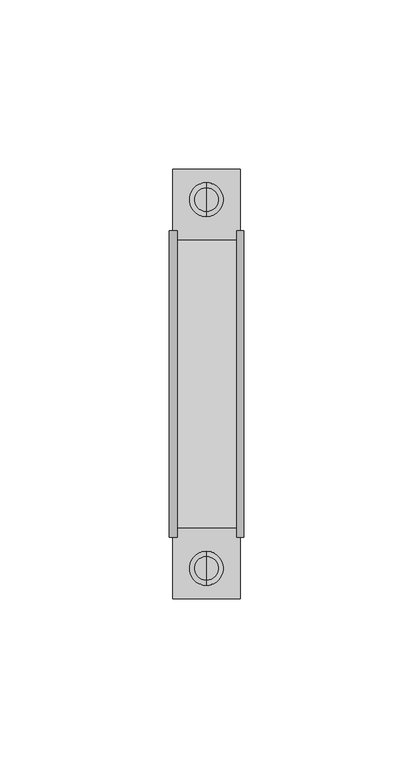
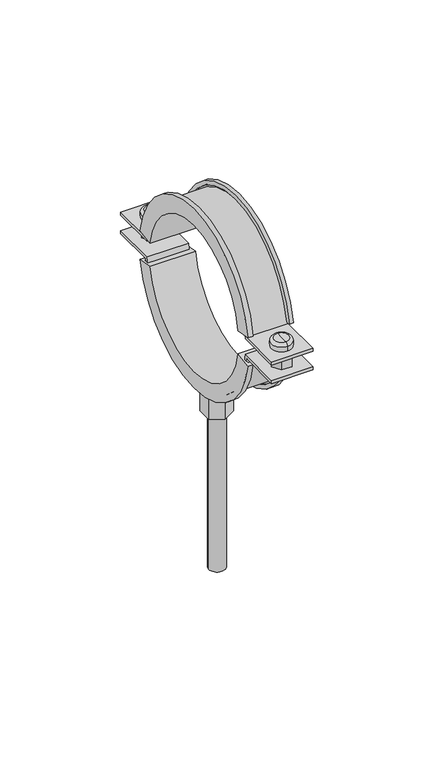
"""IFC4 building model written with IfcOpenShell, lengths in millimetres: pipe fitting geometry, NIRON abrazadera isofonica lisa : Estándard."""

from ifc_helpers import new_model, si_unit, point, frame, origin, origin_2d, place, context, project, spatial, polyline, circle_curve, ellipse_curve, trimmed, segment, composite_curve, outline, extrude, source, transform, mapped, element, save
from ifc_brep_helpers import plane_surface, cylinder_surface, revolved_surface, advanced_brep


def pipe_fitting_d95d0fd4(model_context):
    return source(origin(), model_context, "Body", "SolidModel", [
        advanced_brep(
        [(0.0, 50.5, -7.8), (0.0, 50.5, -4.8), (0.0, 58.5, -4.8), (0.0, 58.5, -7.8), (0.0, 54.5, -7.8), (0.0, 54.5, -4.8)],
        [
            (0, 1),
            (1, 2, circle_curve(frame((0.0, 54.5, -4.8), z_axis=(0.0, 0.0, -1.0), x_axis=(0.0, 1.0, 0.0)), 4.0)),
            (2, 3),
            (3, 0, circle_curve(frame((0.0, 54.5, -7.8), z_axis=(0.0, 0.0, 1.0), x_axis=(0.0, 1.0, 0.0)), 4.0)),
            (2, 1, circle_curve(frame((0.0, 54.5, -4.8), z_axis=(0.0, 0.0, -1.0), x_axis=(0.0, 1.0, 0.0)), 4.0)),
            (0, 3, circle_curve(frame((0.0, 54.5, -7.8), z_axis=(0.0, 0.0, 1.0), x_axis=(0.0, 1.0, 0.0)), 4.0)),
            (4, 0),
            (3, 4),
            (1, 5),
            (5, 2),
        ],
        [
            cylinder_surface(frame((0.0, 54.5, -110.5332781), z_axis=(0.0, 0.0, -1.0), x_axis=(0.0, 1.0, 0.0)), 4.0),
            plane_surface(frame((0.0, 54.5, -7.8), z_axis=(0.0, 0.0, -1.0), x_axis=(0.0, 1.0, 0.0))),
            plane_surface(frame((0.0, 54.5, -4.8), z_axis=(0.0, 0.0, 1.0), x_axis=(0.0, 1.0, 0.0))),
        ],
        [
            (0, [[1, 2, 3, 4]]),
            (0, [[-3, 5, -1, 6]]),
            (1, [[7, -4, 8]]),
            (1, [[-8, -6, -7]]),
            (2, [[9, 10, -2]]),
            (2, [[-10, -9, -5]]),
        ],
    ),
        advanced_brep(
        [(0.0, 54.5, 4.8), (0.0, 49.5, 4.8), (0.0, 59.5, 4.8), (0.0, 49.5, 7.3), (0.0, 59.5, 7.3), (0.0, 51.0, 8.8), (0.0, 54.5, 8.8), (0.0, 58.0, 8.8)],
        [
            (0, 1),
            (1, 2, circle_curve(frame((0.0, 54.5, 4.8), z_axis=(0.0, 0.0, -1.0), x_axis=(0.0, 1.0, 0.0)), 5.0)),
            (2, 0),
            (2, 1, circle_curve(frame((0.0, 54.5, 4.8), z_axis=(0.0, 0.0, -1.0), x_axis=(0.0, 1.0, 0.0)), 5.0)),
            (1, 3),
            (3, 4, circle_curve(frame((0.0, 54.5, 7.3), z_axis=(0.0, 0.0, -1.0), x_axis=(0.0, 1.0, 0.0)), 5.0)),
            (4, 2),
            (4, 3, circle_curve(frame((0.0, 54.5, 7.3), z_axis=(0.0, 0.0, -1.0), x_axis=(0.0, 1.0, 0.0)), 5.0)),
            (5, 6),
            (6, 7),
            (7, 5, circle_curve(frame((0.0, 54.5, 8.8), z_axis=(0.0, 0.0, 1.0), x_axis=(0.0, 1.0, 0.0)), 3.5)),
            (5, 7, circle_curve(frame((0.0, 54.5, 8.8), z_axis=(0.0, 0.0, 1.0), x_axis=(0.0, 1.0, 0.0)), 3.5)),
            (3, 5, circle_curve(frame((0.0, 51.0, 7.3), z_axis=(-1.0, 0.0, 0.0), x_axis=(0.0, 1.0, 0.0)), 1.5)),
            (7, 4, circle_curve(frame((0.0, 58.0, 7.3), z_axis=(-1.0, 0.0, 0.0), x_axis=(0.0, -1.0, 0.0)), 1.5)),
        ],
        [
            plane_surface(frame((0.0, 54.5, 4.8), z_axis=(0.0, 0.0, -1.0), x_axis=(0.0, 1.0, 0.0))),
            cylinder_surface(frame((0.0, 54.5, 9.8), z_axis=(0.0, 0.0, -1.0), x_axis=(0.0, 1.0, 0.0)), 5.0),
            plane_surface(frame((0.0, 54.5, 8.8), z_axis=(0.0, 0.0, 1.0), x_axis=(0.0, 1.0, 0.0))),
            revolved_surface(trimmed(ellipse_curve(frame((0.0, 58.0, 7.3), z_axis=(-1.0, 0.0, 0.0), x_axis=(0.0, -1.0, 0.0)), 1.5, 1.5), [point((0.0, 58.0, 8.8))], [point((0.0, 59.5, 7.3))], True, "CARTESIAN"), (0.0, 54.5, 9.8), (0.0, 0.0, -1.0)),
        ],
        [
            (0, [[1, 2, 3]]),
            (0, [[-3, 4, -1]]),
            (1, [[5, 6, 7, -2]]),
            (1, [[-7, 8, -5, -4]]),
            (2, [[9, 10, 11]]),
            (2, [[-10, -9, 12]]),
            (3, [[13, -11, 14, -6]]),
            (3, [[-14, -12, -13, -8]]),
        ],
    ),
        advanced_brep(
        [(0.0, -50.5, -7.4875), (0.0, -58.5, -7.4875), (0.0, -58.5, -4.4875), (0.0, -50.5, -4.4875), (0.0, -54.5, -7.4875), (0.0, -54.5, -4.4875)],
        [
            (0, 1, circle_curve(frame((0.0, -54.5, -7.4875), z_axis=(0.0, 0.0, 1.0), x_axis=(0.0, -1.0, 0.0)), 4.0)),
            (1, 2),
            (2, 3, circle_curve(frame((0.0, -54.5, -4.4875), z_axis=(0.0, 0.0, -1.0), x_axis=(0.0, -1.0, 0.0)), 4.0)),
            (3, 0),
            (1, 0, circle_curve(frame((0.0, -54.5, -7.4875), z_axis=(0.0, 0.0, 1.0), x_axis=(0.0, -1.0, 0.0)), 4.0)),
            (3, 2, circle_curve(frame((0.0, -54.5, -4.4875), z_axis=(0.0, 0.0, -1.0), x_axis=(0.0, -1.0, 0.0)), 4.0)),
            (4, 1),
            (0, 4),
            (2, 5),
            (5, 3),
        ],
        [
            cylinder_surface(frame((0.0, -54.5, -110.2207781), z_axis=(0.0, 0.0, -1.0), x_axis=(0.0, -1.0, 0.0)), 4.0),
            plane_surface(frame((0.0, -54.5, -7.4875), z_axis=(0.0, 0.0, -1.0), x_axis=(0.0, -1.0, 0.0))),
            plane_surface(frame((0.0, -54.5, -4.4875), z_axis=(0.0, 0.0, 1.0), x_axis=(0.0, -1.0, 0.0))),
        ],
        [
            (0, [[1, 2, 3, 4]]),
            (0, [[5, -4, 6, -2]]),
            (1, [[7, -1, 8]]),
            (1, [[-8, -5, -7]]),
            (2, [[-3, 9, 10]]),
            (2, [[-6, -10, -9]]),
        ],
    ),
        advanced_brep(
        [(0.0, -54.5, 5.1125), (0.0, -59.5, 5.1125), (0.0, -49.5, 5.1125), (0.0, -59.5, 7.6125), (0.0, -49.5, 7.6125), (0.0, -51.0, 9.1125), (0.0, -58.0, 9.1125), (0.0, -54.5, 9.1125)],
        [
            (0, 1),
            (1, 2, circle_curve(frame((0.0, -54.5, 5.1125), z_axis=(0.0, 0.0, -1.0), x_axis=(0.0, -1.0, 0.0)), 5.0)),
            (2, 0),
            (2, 1, circle_curve(frame((0.0, -54.5, 5.1125), z_axis=(0.0, 0.0, -1.0), x_axis=(0.0, -1.0, 0.0)), 5.0)),
            (1, 3),
            (3, 4, circle_curve(frame((0.0, -54.5, 7.6125), z_axis=(0.0, 0.0, -1.0), x_axis=(0.0, -1.0, 0.0)), 5.0)),
            (4, 2),
            (4, 3, circle_curve(frame((0.0, -54.5, 7.6125), z_axis=(0.0, 0.0, -1.0), x_axis=(0.0, -1.0, 0.0)), 5.0)),
            (5, 6, circle_curve(frame((0.0, -54.5, 9.1125), z_axis=(0.0, 0.0, 1.0), x_axis=(0.0, -1.0, 0.0)), 3.5)),
            (6, 7),
            (7, 5),
            (6, 5, circle_curve(frame((0.0, -54.5, 9.1125), z_axis=(0.0, 0.0, 1.0), x_axis=(0.0, -1.0, 0.0)), 3.5)),
            (3, 6, circle_curve(frame((0.0, -58.0, 7.6125), z_axis=(-1.0, 0.0, 0.0), x_axis=(0.0, 1.0, 0.0)), 1.5)),
            (5, 4, circle_curve(frame((0.0, -51.0, 7.6125), z_axis=(-1.0, 0.0, 0.0), x_axis=(0.0, -1.0, 0.0)), 1.5)),
        ],
        [
            plane_surface(frame((0.0, -54.5, 5.1125), z_axis=(0.0, 0.0, -1.0), x_axis=(0.0, -1.0, 0.0))),
            cylinder_surface(frame((0.0, -54.5, 10.1125), z_axis=(0.0, 0.0, -1.0), x_axis=(0.0, -1.0, 0.0)), 5.0),
            plane_surface(frame((0.0, -54.5, 9.1125), z_axis=(0.0, 0.0, 1.0), x_axis=(0.0, -1.0, 0.0))),
            revolved_surface(trimmed(ellipse_curve(frame((0.0, -58.0, 7.6125), z_axis=(1.0, 0.0, 0.0), x_axis=(0.0, 1.0, 0.0)), 1.5, 1.5), [point((0.0, -58.0, 9.1125))], [point((0.0, -59.5, 7.6125))], True, "CARTESIAN"), (0.0, -54.5, 10.1125), (0.0, 0.0, -1.0)),
        ],
        [
            (0, [[1, 2, 3]]),
            (0, [[-3, 4, -1]]),
            (1, [[-2, 5, 6, 7]]),
            (1, [[-4, -7, 8, -5]]),
            (2, [[9, 10, 11]]),
            (2, [[12, -11, -10]]),
            (3, [[-6, 13, -9, 14]]),
            (3, [[-8, -14, -12, -13]]),
        ],
    ),
        extrude(outline(polyline([(2.5, 50.169873), (-2.5, 50.169873), (-5.0, 54.5), (-2.5, 58.830127), (2.5, 58.830127), (5.0, 54.5), (2.5, 50.169873)])), frame((0.0, 0.0, -4.0), z_axis=(0.0, 0.0, 1.0), x_axis=(1.0, 0.0, 0.0)), (0.0, 0.0, 1.0), 8.0),
        extrude(outline(polyline([(2.5, -50.169873), (5.0, -54.5), (2.5, -58.830127), (-2.5, -58.830127), (-5.0, -54.5), (-2.5, -50.169873), (2.5, -50.169873)])), frame((0.0, 0.0, -4.0), z_axis=(0.0, 0.0, 1.0), x_axis=(1.0, 0.0, 0.0)), (0.0, 0.0, 1.0), 8.0),
        advanced_brep(
        [(11.0, -37.0244701, 6.0), (11.0, -45.3673174, 7.341417), (9.0, -45.3673174, 7.341417), (9.0, -43.392679, 7.0239218), (10.0, -43.392679, 7.0239218), (10.0, -41.4180406, 6.7064267), (-10.0, -41.4180406, 6.7064267), (-10.0, -43.392679, 7.0239218), (-8.5466338, -43.392679, 7.0239218), (-8.5466338, -45.3673174, 7.341417), (-11.0, -45.3673174, 7.341417), (-11.0, -37.0244701, 6.0), (11.0, 37.0244701, 6.0), (-11.0, 37.0244701, 6.0), (-11.0, 45.3673174, 7.341417), (-8.5466338, 45.3673174, 7.341417), (-8.5466338, 43.392679, 7.0239218), (-10.0, 43.392679, 7.0239218), (-10.0, 41.4180406, 6.7064267), (10.0, 41.4180406, 6.7064267), (10.0, 43.392679, 7.0239218), (9.0, 43.392679, 7.0239218), (9.0, 45.3673174, 7.341417), (11.0, 45.3673174, 7.341417)],
        [
            (0, 1),
            (1, 2),
            (2, 3),
            (3, 4),
            (4, 5),
            (5, 6),
            (6, 7),
            (7, 8),
            (8, 9),
            (9, 10),
            (10, 11),
            (11, 0),
            (12, 13),
            (13, 14),
            (14, 15),
            (15, 16),
            (16, 17),
            (17, 18),
            (18, 19),
            (19, 20),
            (20, 21),
            (21, 22),
            (22, 23),
            (23, 12),
            (12, 0, circle_curve(frame((11.0, 0.0, 0.0469661), z_axis=(1.0, 0.0, 0.0), x_axis=(0.0, -0.9873192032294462, 0.15874756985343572)), 37.5)),
            (11, 13, circle_curve(frame((-11.0, 0.0, 0.0469661), z_axis=(-1.0, 0.0, 0.0), x_axis=(0.0, -0.9873192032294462, 0.15874756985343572)), 37.5)),
            (10, 14, circle_curve(frame((-11.0, 0.0, 0.0469661), z_axis=(-1.0, 0.0, 0.0), x_axis=(0.0, -0.9873192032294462, 0.15874756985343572)), 45.95)),
            (9, 15, circle_curve(frame((-8.5466338, 0.0, 0.0469661), z_axis=(-1.0, 0.0, 0.0), x_axis=(0.0, -0.9873192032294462, 0.15874756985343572)), 45.95)),
            (8, 16, circle_curve(frame((-8.5466338, 0.0, 0.0469661), z_axis=(-1.0, 0.0, 0.0), x_axis=(0.0, -0.9873192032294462, 0.15874756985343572)), 43.95)),
            (7, 17, circle_curve(frame((-10.0, 0.0, 0.0469661), z_axis=(-1.0, 0.0, 0.0), x_axis=(0.0, -0.9873192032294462, 0.15874756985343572)), 43.95)),
            (6, 18, circle_curve(frame((-10.0, 0.0, 0.0469661), z_axis=(-1.0, 0.0, 0.0), x_axis=(0.0, -0.9873192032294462, 0.15874756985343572)), 41.95)),
            (5, 19, circle_curve(frame((10.0, 0.0, 0.0469661), z_axis=(-1.0, 0.0, 0.0), x_axis=(0.0, -0.9873192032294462, 0.15874756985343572)), 41.95)),
            (4, 20, circle_curve(frame((10.0, 0.0, 0.0469661), z_axis=(-1.0, 0.0, 0.0), x_axis=(0.0, -0.9873192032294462, 0.15874756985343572)), 43.95)),
            (3, 21, circle_curve(frame((9.0, 0.0, 0.0469661), z_axis=(-1.0, 0.0, 0.0), x_axis=(0.0, -0.9873192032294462, 0.15874756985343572)), 43.95)),
            (2, 22, circle_curve(frame((9.0, 0.0, 0.0469661), z_axis=(-1.0, 0.0, 0.0), x_axis=(0.0, -0.9873192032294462, 0.15874756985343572)), 45.95)),
            (1, 23, circle_curve(frame((11.0, 0.0, 0.0469661), z_axis=(-1.0, 0.0, 0.0), x_axis=(0.0, -0.9873192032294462, 0.15874756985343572)), 45.95)),
        ],
        [
            plane_surface(frame((0.0, -37.0244701, 6.0), z_axis=(0.0, -0.15874756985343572, -0.9873192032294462), x_axis=(1.0, 0.0, 0.0))),
            plane_surface(frame((0.0, 37.0244701, 6.0), z_axis=(0.0, 0.1587475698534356, -0.9873192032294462), x_axis=(1.0, 0.0, 0.0))),
            revolved_surface(polyline([(-11.0, -37.02447012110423, 5.999999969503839), (11.0, -37.02447012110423, 5.999999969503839)]), (0.0, 0.0, 0.0469661), (-1.0, 0.0, 0.0)),
            plane_surface(frame((-11.0, 0.0, 0.0469661), z_axis=(-1.0, 0.0, 0.0), x_axis=(0.0, -0.9873192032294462, 0.15874756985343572))),
            cylinder_surface(frame((0.0, 0.0, 0.0469661), z_axis=(-1.0, 0.0, 0.0), x_axis=(0.0, -0.9873192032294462, 0.15874756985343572)), 45.95),
            plane_surface(frame((-8.5466338, 0.0, 0.0469661), z_axis=(1.0, 0.0, 0.0), x_axis=(0.0, -0.9873192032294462, 0.15874756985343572))),
            revolved_surface(polyline([(-10.0, -43.39267898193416, 7.0239217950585), (-8.5466338, -43.39267898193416, 7.0239217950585)]), (0.0, 0.0, 0.0469661), (-1.0, 0.0, 0.0)),
            plane_surface(frame((-10.0, 0.0, 0.0469661), z_axis=(1.0, 0.0, 0.0), x_axis=(0.0, -0.9873192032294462, 0.15874756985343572))),
            cylinder_surface(frame((0.0, 0.0, 0.0469661), z_axis=(-1.0, 0.0, 0.0), x_axis=(0.0, -0.9873192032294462, 0.15874756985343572)), 41.95),
            plane_surface(frame((10.0, 0.0, 0.0469661), z_axis=(-1.0, 0.0, 0.0), x_axis=(0.0, -0.9873192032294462, 0.15874756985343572))),
            revolved_surface(polyline([(9.0, -43.39267898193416, 7.0239217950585), (10.0, -43.39267898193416, 7.0239217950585)]), (0.0, 0.0, 0.0469661), (-1.0, 0.0, 0.0)),
            plane_surface(frame((9.0, 0.0, 0.0469661), z_axis=(-1.0, 0.0, 0.0), x_axis=(0.0, -0.9873192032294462, 0.15874756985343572))),
            plane_surface(frame((11.0, 0.0, 0.0469661), z_axis=(1.0, 0.0, 0.0), x_axis=(0.0, -0.9873192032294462, 0.15874756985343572))),
        ],
        [
            (0, [[1, 2, 3, 4, 5, 6, 7, 8, 9, 10, 11, 12]]),
            (1, [[13, 14, 15, 16, 17, 18, 19, 20, 21, 22, 23, 24]]),
            (2, [[25, -12, 26, -13]]),
            (3, [[-26, -11, 27, -14]]),
            (4, [[-27, -10, 28, -15]]),
            (5, [[-28, -9, 29, -16]]),
            (6, [[-29, -8, 30, -17]]),
            (7, [[-30, -7, 31, -18]]),
            (8, [[-31, -6, 32, -19]]),
            (9, [[-32, -5, 33, -20]]),
            (10, [[-33, -4, 34, -21]]),
            (11, [[-34, -3, 35, -22]]),
            (4, [[-35, -2, 36, -23]]),
            (12, [[-36, -1, -25, -24]]),
        ],
    ),
        extrude(outline(composite_curve([segment(trimmed(circle_curve(origin_2d(), 41.5), [point((-41.3067791, -4.0))], [point((41.3067791, -4.0))], True, "CARTESIAN"), True, "CONTINUOUS"), segment(polyline([(41.3067791, -4.0), (63.5, -4.0), (63.5, -5.5), (42.6468053, -5.5)]), True, "CONTINUOUS"), segment(trimmed(circle_curve(origin_2d(), 43.0), [point((42.6468053, -5.5))], [point((-42.6468053, -5.5))], False, "CARTESIAN"), True, "CONTINUOUS"), segment(polyline([(-42.6468053, -5.5), (-63.5, -5.5), (-63.5, -4.0), (-41.3067791, -4.0)]), True, "CONTINUOUS")], self_intersect=False)), frame((-10.0, 0.0, 0.0), z_axis=(1.0, 0.0, 0.0), x_axis=(0.0, 1.0, 0.0)), (0.0, 0.0, 1.0), 20.0),
        advanced_brep(
        [(11.0, -37.016888, -6.0), (-11.0, -37.016888, -6.0), (-11.0, -45.3580268, -7.352), (-8.5466338, -45.3580268, -7.352), (-8.5466338, -43.3837928, -7.032), (-10.0, -43.3837928, -7.032), (-10.0, -41.4095588, -6.712), (10.0, -41.4095588, -6.712), (10.0, -43.3837928, -7.032), (9.0, -43.3837928, -7.032), (9.0, -45.3580268, -7.352), (11.0, -45.3580268, -7.352), (11.0, 37.016888, -6.0), (11.0, 45.3580268, -7.352), (9.0, 45.3580268, -7.352), (9.0, 43.3837928, -7.032), (10.0, 43.3837928, -7.032), (10.0, 41.4095588, -6.712), (-10.0, 41.4095588, -6.712), (-10.0, 43.3837928, -7.032), (-8.5466338, 43.3837928, -7.032), (-8.5466338, 45.3580268, -7.352), (-11.0, 45.3580268, -7.352), (-11.0, 37.016888, -6.0)],
        [
            (0, 1),
            (1, 2),
            (2, 3),
            (3, 4),
            (4, 5),
            (5, 6),
            (6, 7),
            (7, 8),
            (8, 9),
            (9, 10),
            (10, 11),
            (11, 0),
            (12, 13),
            (13, 14),
            (14, 15),
            (15, 16),
            (16, 17),
            (17, 18),
            (18, 19),
            (19, 20),
            (20, 21),
            (21, 22),
            (22, 23),
            (23, 12),
            (23, 1, circle_curve(frame((-11.0, 0.0, 0.0), z_axis=(-1.0, 0.0, 0.0), x_axis=(0.0, -0.9871170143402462, -0.15999999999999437)), 37.5)),
            (0, 12, circle_curve(frame((11.0, 0.0, 0.0), z_axis=(1.0, 0.0, 0.0), x_axis=(0.0, -0.9871170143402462, -0.15999999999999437)), 37.5)),
            (22, 2, circle_curve(frame((-11.0, 0.0, 0.0), z_axis=(-1.0, 0.0, 0.0), x_axis=(0.0, -0.9871170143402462, -0.15999999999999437)), 45.95)),
            (21, 3, circle_curve(frame((-8.5466338, 0.0, 0.0), z_axis=(-1.0, 0.0, 0.0), x_axis=(0.0, -0.9871170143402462, -0.15999999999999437)), 45.95)),
            (20, 4, circle_curve(frame((-8.5466338, 0.0, 0.0), z_axis=(-1.0, 0.0, 0.0), x_axis=(0.0, -0.9871170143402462, -0.15999999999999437)), 43.95)),
            (19, 5, circle_curve(frame((-10.0, 0.0, 0.0), z_axis=(-1.0, 0.0, 0.0), x_axis=(0.0, -0.9871170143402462, -0.15999999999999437)), 43.95)),
            (18, 6, circle_curve(frame((-10.0, 0.0, 0.0), z_axis=(-1.0, 0.0, 0.0), x_axis=(0.0, -0.9871170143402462, -0.15999999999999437)), 41.95)),
            (17, 7, circle_curve(frame((10.0, 0.0, 0.0), z_axis=(-1.0, 0.0, 0.0), x_axis=(0.0, -0.9871170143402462, -0.15999999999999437)), 41.95)),
            (16, 8, circle_curve(frame((10.0, 0.0, 0.0), z_axis=(-1.0, 0.0, 0.0), x_axis=(0.0, -0.9871170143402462, -0.15999999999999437)), 43.95)),
            (15, 9, circle_curve(frame((9.0, 0.0, 0.0), z_axis=(-1.0, 0.0, 0.0), x_axis=(0.0, -0.9871170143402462, -0.15999999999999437)), 43.95)),
            (14, 10, circle_curve(frame((9.0, 0.0, 0.0), z_axis=(-1.0, 0.0, 0.0), x_axis=(0.0, -0.9871170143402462, -0.15999999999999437)), 45.95)),
            (13, 11, circle_curve(frame((11.0, 0.0, 0.0), z_axis=(-1.0, 0.0, 0.0), x_axis=(0.0, -0.9871170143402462, -0.15999999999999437)), 45.95)),
        ],
        [
            plane_surface(frame((0.0, -37.016888, -6.0), z_axis=(0.0, -0.15999999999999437, 0.9871170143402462), x_axis=(1.0, 0.0, 0.0))),
            plane_surface(frame((0.0, 37.016888, -6.0), z_axis=(0.0, 0.15999999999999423, 0.9871170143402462), x_axis=(1.0, 0.0, 0.0))),
            revolved_surface(polyline([(11.0, -37.01688803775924, -5.999999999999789), (-11.0, -37.01688803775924, -5.999999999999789)]), (0.0, 0.0, 0.0), (1.0, 0.0, 0.0)),
            plane_surface(frame((-11.0, 0.0, 0.0), z_axis=(-1.0000000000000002, 0.0, 0.0), x_axis=(0.0, -0.9871170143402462, -0.15999999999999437))),
            cylinder_surface(frame((0.0, 0.0, 0.0), z_axis=(1.0, 0.0, 0.0), x_axis=(0.0, -0.9871170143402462, -0.15999999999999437)), 45.95),
            plane_surface(frame((-8.5466338, 0.0, 0.0), z_axis=(1.0000000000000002, 0.0, 0.0), x_axis=(0.0, -0.9871170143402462, -0.15999999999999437))),
            revolved_surface(polyline([(-8.5466338, -43.38379278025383, -7.031999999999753), (-10.0, -43.38379278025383, -7.031999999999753)]), (0.0, 0.0, 0.0), (1.0, 0.0, 0.0)),
            plane_surface(frame((-10.0, 0.0, 0.0), z_axis=(1.0000000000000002, 0.0, 0.0), x_axis=(0.0, -0.9871170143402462, -0.15999999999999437))),
            cylinder_surface(frame((0.0, 0.0, 0.0), z_axis=(1.0, 0.0, 0.0), x_axis=(0.0, -0.9871170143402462, -0.15999999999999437)), 41.95),
            plane_surface(frame((10.0, 0.0, 0.0), z_axis=(-1.0000000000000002, 0.0, 0.0), x_axis=(0.0, -0.9871170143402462, -0.15999999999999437))),
            revolved_surface(polyline([(10.0, -43.38379278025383, -7.031999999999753), (9.0, -43.38379278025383, -7.031999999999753)]), (0.0, 0.0, 0.0), (1.0, 0.0, 0.0)),
            plane_surface(frame((9.0, 0.0, 0.0), z_axis=(-1.0000000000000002, 0.0, 0.0), x_axis=(0.0, -0.9871170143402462, -0.15999999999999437))),
            plane_surface(frame((11.0, 0.0, 0.0), z_axis=(1.0000000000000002, 0.0, 0.0), x_axis=(0.0, -0.9871170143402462, -0.15999999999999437))),
        ],
        [
            (0, [[1, 2, 3, 4, 5, 6, 7, 8, 9, 10, 11, 12]]),
            (1, [[13, 14, 15, 16, 17, 18, 19, 20, 21, 22, 23, 24]]),
            (2, [[25, -1, 26, -24]]),
            (3, [[27, -2, -25, -23]]),
            (4, [[28, -3, -27, -22]]),
            (5, [[29, -4, -28, -21]]),
            (6, [[30, -5, -29, -20]]),
            (7, [[31, -6, -30, -19]]),
            (8, [[32, -7, -31, -18]]),
            (9, [[33, -8, -32, -17]]),
            (10, [[34, -9, -33, -16]]),
            (11, [[35, -10, -34, -15]]),
            (4, [[36, -11, -35, -14]]),
            (12, [[-26, -12, -36, -13]]),
        ],
    ),
        extrude(outline(composite_curve([segment(trimmed(circle_curve(origin_2d(), 43.0), [point((-42.6468053, 5.5))], [point((42.6468053, 5.5))], False, "CARTESIAN"), True, "CONTINUOUS"), segment(polyline([(42.6468053, 5.5), (63.5, 5.5), (63.5, 4.0), (41.3067791, 4.0)]), True, "CONTINUOUS"), segment(trimmed(circle_curve(origin_2d(), 41.5), [point((41.3067791, 4.0))], [point((-41.3067791, 4.0))], True, "CARTESIAN"), True, "CONTINUOUS"), segment(polyline([(-41.3067791, 4.0), (-63.5, 4.0), (-63.5, 5.5), (-42.6468053, 5.5)]), True, "CONTINUOUS")], self_intersect=False)), frame((-10.0, 0.0, 0.0), z_axis=(1.0, 0.0, 0.0), x_axis=(0.0, 1.0, 0.0)), (0.0, 0.0, 1.0), 20.0),
        extrude(outline(composite_curve([segment(trimmed(circle_curve(origin_2d(), 4.0), [point((-4.0, 0.0))], [point((4.0, 0.0))], False, "CARTESIAN"), True, "CONTINUOUS"), segment(trimmed(circle_curve(origin_2d(), 4.0), [point((4.0, 0.0))], [point((-4.0, 0.0))], False, "CARTESIAN"), True, "CONTINUOUS")], self_intersect=False)), frame((0.0, 0.0, -141.5), z_axis=(0.0, 0.0, 1.0), x_axis=(1.0, 0.0, 0.0)), (0.0, 0.0, 1.0), 100.0),
        extrude(outline(polyline([(-6.0621778, 3.5), (0.0, 7.0), (6.0621778, 3.5), (6.0621778, -3.5), (0.0, -7.0), (-6.0621778, -3.5), (-6.0621778, 3.5)])), frame((0.0, 0.0, -61.5), z_axis=(0.0, 0.0, 1.0), x_axis=(1.0, 0.0, 0.0)), (0.0, 0.0, 1.0), 20.0),
    ])


if __name__ == "__main__":
    model = new_model("IFC4")
    model_context = context("Model", 3, world=origin())
    ifc_project = project(units=[si_unit("LENGTHUNIT", "METRE", prefix="MILLI")], contexts=[model_context])
    site = spatial("IfcSite", under=ifc_project)
    building = spatial("IfcBuilding", under=site)
    placement = place(None, origin())
    pipe_fitting_shape = pipe_fitting_d95d0fd4(model_context)
    element("IfcPipeFitting", 1, ObjectType="NIRON abrazadera isofonica lisa : Estándard", at=placement, inside=building, context=model_context, shape_type="MappedRepresentation", body=[
        mapped(pipe_fitting_shape, transform((0.0, 0.0, 0.0), x_axis=(1.0, 0.0, 0.0), y_axis=(0.0, 1.0, 0.0), z_axis=(0.0, 0.0, 1.0))),
    ])
    save(model, "model.ifc")
